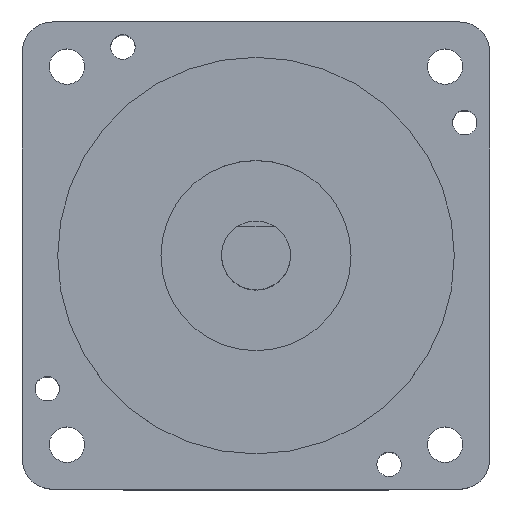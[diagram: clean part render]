
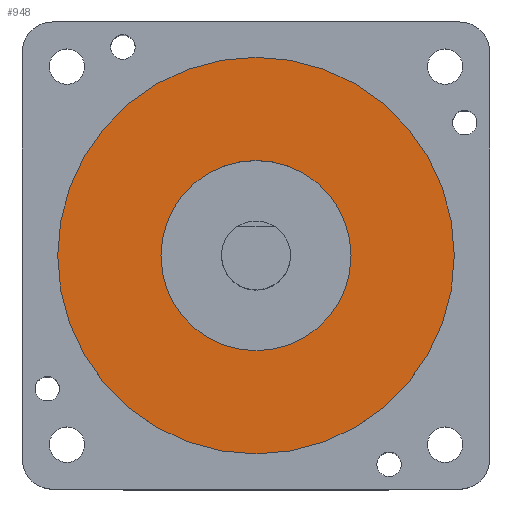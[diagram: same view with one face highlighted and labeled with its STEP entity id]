
A CAD part, top view. The second image highlights one B-rep face of the part: STEP entity #948.
In plain terms, the highlighted planar face has unit normal (0, 0, 1).
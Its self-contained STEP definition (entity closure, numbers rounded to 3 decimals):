
#218=FACE_BOUND('',#324,.T.);
#255=FACE_OUTER_BOUND('',#323,.T.);
#323=EDGE_LOOP('',(#834));
#324=EDGE_LOOP('',(#835));
#389=CIRCLE('',#1069,36.5);
#390=CIRCLE('',#1071,17.5);
#477=VERTEX_POINT('',#1616);
#478=VERTEX_POINT('',#1620);
#600=EDGE_CURVE('',#477,#477,#389,.T.);
#601=EDGE_CURVE('',#478,#478,#390,.T.);
#834=ORIENTED_EDGE('',*,*,#600,.T.);
#835=ORIENTED_EDGE('',*,*,#601,.F.);
#908=PLANE('',#1070);
#948=ADVANCED_FACE('',(#255,#218),#908,.T.);
#1069=AXIS2_PLACEMENT_3D('',#1618,#1329,#1330);
#1070=AXIS2_PLACEMENT_3D('',#1619,#1331,#1332);
#1071=AXIS2_PLACEMENT_3D('',#1621,#1333,#1334);
#1329=DIRECTION('center_axis',(0.,0.,1.));
#1330=DIRECTION('ref_axis',(1.,0.,0.));
#1331=DIRECTION('center_axis',(0.,0.,1.));
#1332=DIRECTION('ref_axis',(1.,0.,0.));
#1333=DIRECTION('center_axis',(0.,0.,1.));
#1334=DIRECTION('ref_axis',(1.,0.,0.));
#1616=CARTESIAN_POINT('',(36.5,0.,10.));
#1618=CARTESIAN_POINT('Origin',(0.,0.,10.));
#1619=CARTESIAN_POINT('Origin',(0.,0.,10.));
#1620=CARTESIAN_POINT('',(-17.5,0.,10.));
#1621=CARTESIAN_POINT('Origin',(0.,0.,10.));
